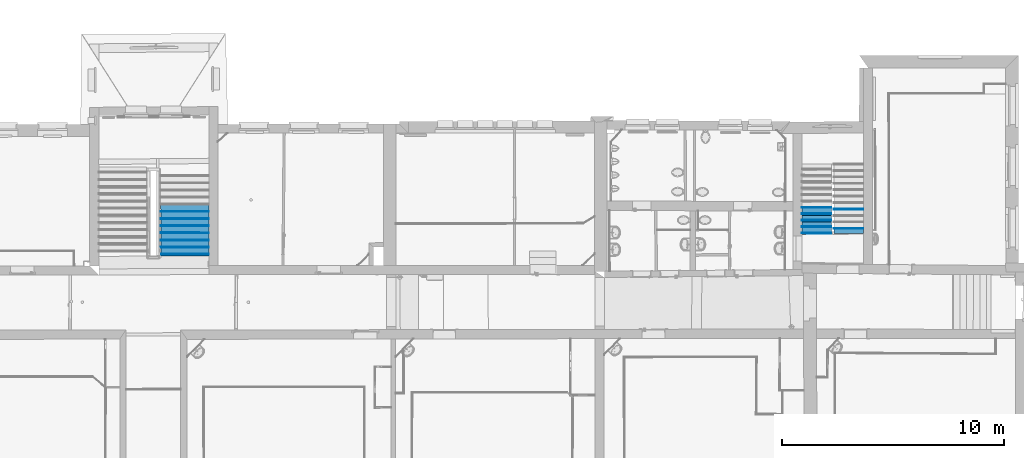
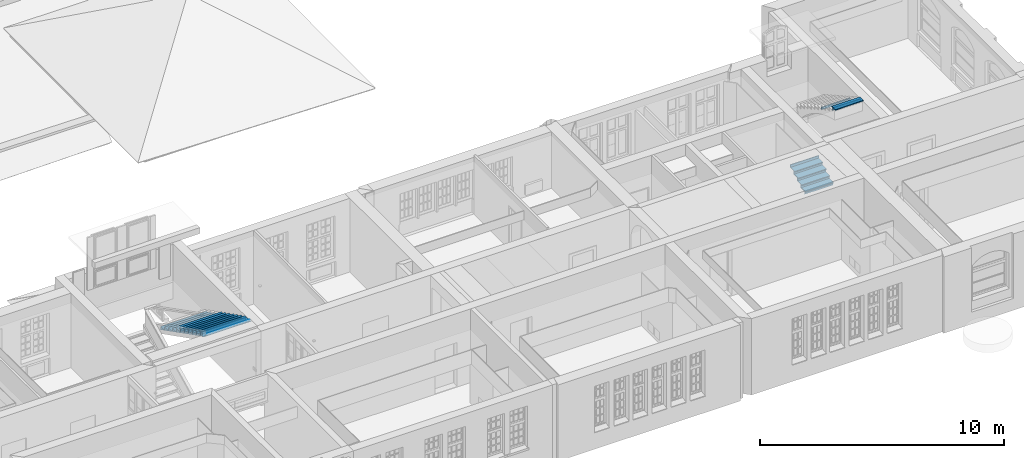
# One storey, part 113 of 158: 27 building element parts, 3 elements without a shape of their own.
"""IFC2X3 building model written with IfcOpenShell, lengths in metres."""

from ifc_helpers import new_model, entity, si_unit, converted_unit, derived_unit, money_unit, direction, frame, origin_with_axes, place, context, subcontext, project, spatial, faceted_brep, material, element, aggregate, save


model = new_model("IFC2X3")

# Units and contexts
model_context = context("Model", 3, precision=1e-05, world=origin_with_axes(), true_north=direction((0.0, 1.0)))
body_context = subcontext(model_context, "Body", "Model", "MODEL_VIEW")
ifc_project = project(units=[si_unit("LENGTHUNIT", "METRE"), si_unit("AREAUNIT", "SQUARE_METRE"), si_unit("VOLUMEUNIT", "CUBIC_METRE"), converted_unit("PLANEANGLEUNIT", "DEGREE", entity("IfcPlaneAngleMeasure", 0.0174532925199), si_unit("PLANEANGLEUNIT", "RADIAN"), dimensions=[0, 0, 0, 0, 0, 0, 0]), money_unit("EUR"), converted_unit("TIMEUNIT", "Year", entity("IfcTimeMeasure", 31556926.0), si_unit("TIMEUNIT", "SECOND"), dimensions=[0, 0, 1, 0, 0, 0, 0]), si_unit("MASSUNIT", "GRAM", prefix="KILO"), si_unit("THERMODYNAMICTEMPERATUREUNIT", "DEGREE_CELSIUS"), si_unit("LUMINOUSINTENSITYUNIT", "LUMEN"), si_unit("ENERGYUNIT", "JOULE", prefix="MEGA"), derived_unit("THERMALCONDUCTANCEUNIT", [(si_unit("POWERUNIT", "WATT"), 1), (si_unit("LENGTHUNIT", "METRE"), -1), (si_unit("THERMODYNAMICTEMPERATUREUNIT", "KELVIN"), -1)]), derived_unit("SPECIFICHEATCAPACITYUNIT", [(si_unit("ENERGYUNIT", "JOULE"), 1), (si_unit("MASSUNIT", "GRAM", prefix="KILO"), -1), (si_unit("THERMODYNAMICTEMPERATUREUNIT", "KELVIN"), -1)]), derived_unit("MASSDENSITYUNIT", [(si_unit("MASSUNIT", "GRAM", prefix="KILO"), 1), (si_unit("VOLUMEUNIT", "CUBIC_METRE"), -1)])], contexts=[model_context])

# Site, building, storey
site_placement = place(None, origin_with_axes())
site = spatial("IfcSite", under=ifc_project, at=site_placement, Name="Gelände", CompositionType="ELEMENT")
building_placement = place(site_placement, origin_with_axes())
building = spatial("IfcBuilding", under=site, at=building_placement, Name="Gebäude", CompositionType="ELEMENT")
storey_placement = place(building_placement, origin_with_axes())
storey = spatial("IfcBuildingStorey", under=building, at=storey_placement, Name="ERDGESCHOSS", CompositionType="ELEMENT", Elevation=0.0)

# Stair, building element parts
stair_1_placement = place(storey_placement, frame((21.8959454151, 21.0830287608, -0.0587690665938), z_axis=(0.0, 0.0, 1.0), x_axis=(0.999997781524, -0.00210640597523, 0.0)))
stair_1 = element("IfcStair", 1, at=stair_1_placement, inside=storey, Name="Treppe-003", ShapeType="NOTDEFINED")
ifc_material = material(Name="05_ALLGEMEIN - TRAGENDE BAUTEILE")
building_element_part_1_placement = place(stair_1_placement, origin_with_axes())
building_element_part_1 = element("IfcBuildingElementPart", 2, at=building_element_part_1_placement, material=ifc_material, Name="05_ALLGEMEIN - TRAGENDE BAUTEILE", context=body_context, shape_type="Brep", body=[
    faceted_brep([(1.32995944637, 0.0510673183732, 0.122397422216), (1.32992734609, 0.0910673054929, 0.122397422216), (-7.22256410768e-05, 0.0899999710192, 0.122397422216), (-4.01253561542e-05, 0.0499999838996, 0.122397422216), (1.32995944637, 0.0510673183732, 0.0), (1.32992734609, 0.0910673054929, 0.0), (-7.22256410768e-05, 0.0899999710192, 0.0), (-4.01253561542e-05, 0.0499999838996, 0.0)], [[[0, 1, 2, 3]], [[0, 4, 5, 1]], [[1, 5, 6, 2]], [[3, 2, 6, 7]], [[4, 0, 3, 7]], [[5, 4, 7, 6]]]),
])
building_element_part_2_placement = place(stair_1_placement, origin_with_axes())
building_element_part_2 = element("IfcBuildingElementPart", 3, at=building_element_part_2_placement, material=ifc_material, Name="05_ALLGEMEIN - TRAGENDE BAUTEILE", context=body_context, shape_type="Brep", body=[
    faceted_brep([(1.32972756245, 0.340016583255, 0.284794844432), (1.32969546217, 0.380016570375, 0.284794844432), (-0.000304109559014, 0.378949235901, 0.284794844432), (-0.000272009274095, 0.338949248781, 0.284794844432), (1.32972756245, 0.340016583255, 0.162397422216), (1.32969546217, 0.380016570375, 0.162397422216), (-0.000304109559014, 0.378949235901, 0.162397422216), (-0.000272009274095, 0.338949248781, 0.162397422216)], [[[0, 1, 2, 3]], [[0, 4, 5, 1]], [[1, 5, 6, 2]], [[3, 2, 6, 7]], [[4, 0, 3, 7]], [[5, 4, 7, 6]]]),
])
building_element_part_3_placement = place(stair_1_placement, origin_with_axes())
building_element_part_3 = element("IfcBuildingElementPart", 4, at=building_element_part_3_placement, material=ifc_material, Name="05_ALLGEMEIN - TRAGENDE BAUTEILE", context=body_context, shape_type="Brep", body=[
    faceted_brep([(-0.000503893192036, 0.627898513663, 0.447192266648), (1.32949567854, 0.628965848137, 0.447192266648), (1.32946357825, 0.668965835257, 0.447192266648), (-0.000535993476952, 0.667898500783, 0.447192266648), (-0.000503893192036, 0.627898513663, 0.324794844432), (1.32949567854, 0.628965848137, 0.324794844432), (1.32946357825, 0.668965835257, 0.324794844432), (-0.000535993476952, 0.667898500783, 0.324794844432)], [[[0, 1, 2, 3]], [[4, 5, 1, 0]], [[2, 1, 5, 6]], [[3, 2, 6, 7]], [[4, 0, 3, 7]], [[7, 6, 5, 4]]]),
])
building_element_part_4_placement = place(stair_1_placement, origin_with_axes())
building_element_part_4 = element("IfcBuildingElementPart", 5, at=building_element_part_4_placement, material=ifc_material, Name="05_ALLGEMEIN - TRAGENDE BAUTEILE", context=body_context, shape_type="Brep", body=[
    faceted_brep([(-0.000735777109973, 0.916847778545, 0.609589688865), (1.32926379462, 0.917915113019, 0.609589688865), (1.32923169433, 0.957915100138, 0.609589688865), (-0.000767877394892, 0.956847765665, 0.609589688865), (-0.000735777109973, 0.916847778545, 0.487192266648), (1.32926379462, 0.917915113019, 0.487192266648), (1.32923169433, 0.957915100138, 0.487192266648), (-0.000767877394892, 0.956847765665, 0.487192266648)], [[[0, 1, 2, 3]], [[4, 5, 1, 0]], [[2, 1, 5, 6]], [[3, 2, 6, 7]], [[4, 0, 3, 7]], [[7, 6, 5, 4]]]),
])
building_element_part_5_placement = place(stair_1_placement, origin_with_axes())
building_element_part_5 = element("IfcBuildingElementPart", 6, at=building_element_part_5_placement, material=ifc_material, Name="05_ALLGEMEIN - TRAGENDE BAUTEILE", context=body_context, shape_type="Brep", body=[
    faceted_brep([(-0.000967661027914, 1.20579704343, 0.771987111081), (1.3290319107, 1.2068643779, 0.771987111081), (1.32899981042, 1.24686436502, 0.771987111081), (-0.000999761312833, 1.24579703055, 0.771987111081), (-0.000967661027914, 1.20579704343, 0.649589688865), (1.3290319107, 1.2068643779, 0.649589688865), (1.32899981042, 1.24686436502, 0.649589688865), (-0.000999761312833, 1.24579703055, 0.649589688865)], [[[0, 1, 2, 3]], [[4, 5, 1, 0]], [[2, 1, 5, 6]], [[3, 2, 6, 7]], [[4, 0, 3, 7]], [[7, 6, 5, 4]]]),
])
building_element_part_6_placement = place(stair_1_placement, origin_with_axes())
building_element_part_6 = element("IfcBuildingElementPart", 7, at=building_element_part_6_placement, material=ifc_material, Name="05_ALLGEMEIN - TRAGENDE BAUTEILE", context=body_context, shape_type="Brep", body=[
    faceted_brep([(0.0, 0.0, 0.122397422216), (1.32999957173, 0.00106733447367, 0.122397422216), (1.32999957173, 0.00106733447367, 0.162397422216), (0.0, 0.0, 0.162397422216), (-0.000304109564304, 0.378949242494, 0.122397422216), (1.32969546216, 0.380016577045, 0.122397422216), (1.32969546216, 0.380016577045, 0.162397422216), (-0.000304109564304, 0.378949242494, 0.162397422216)], [[[0, 1, 2, 3]], [[0, 4, 5, 1]], [[1, 5, 6, 2]], [[3, 2, 6, 7]], [[4, 0, 3, 7]], [[5, 4, 7, 6]]]),
])
building_element_part_7_placement = place(stair_1_placement, origin_with_axes())
building_element_part_7 = element("IfcBuildingElementPart", 8, at=building_element_part_7_placement, material=ifc_material, Name="05_ALLGEMEIN - TRAGENDE BAUTEILE", context=body_context, shape_type="Brep", body=[
    faceted_brep([(-0.000231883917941, 0.288949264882, 0.324794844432), (-0.000231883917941, 0.288949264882, 0.284794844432), (1.32976768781, 0.290016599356, 0.284794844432), (1.32976768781, 0.290016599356, 0.324794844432), (-0.000535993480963, 0.667898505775, 0.324794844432), (-0.000535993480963, 0.667898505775, 0.284794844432), (1.32946357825, 0.668965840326, 0.284794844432), (1.32946357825, 0.668965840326, 0.324794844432)], [[[0, 1, 2, 3]], [[4, 5, 1, 0]], [[2, 1, 5, 6]], [[3, 2, 6, 7]], [[4, 0, 3, 7]], [[7, 6, 5, 4]]]),
])
building_element_part_8_placement = place(stair_1_placement, origin_with_axes())
building_element_part_8 = element("IfcBuildingElementPart", 9, at=building_element_part_8_placement, material=ifc_material, Name="05_ALLGEMEIN - TRAGENDE BAUTEILE", context=body_context, shape_type="Brep", body=[
    faceted_brep([(-0.000463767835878, 0.577898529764, 0.487192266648), (-0.000463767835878, 0.577898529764, 0.447192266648), (1.32953580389, 0.578965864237, 0.447192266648), (1.32953580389, 0.578965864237, 0.487192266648), (-0.000767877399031, 0.95684777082, 0.487192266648), (-0.000767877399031, 0.95684777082, 0.447192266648), (1.32923169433, 0.957915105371, 0.447192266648), (1.32923169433, 0.957915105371, 0.487192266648)], [[[0, 1, 2, 3]], [[4, 5, 1, 0]], [[2, 1, 5, 6]], [[3, 2, 6, 7]], [[4, 0, 3, 7]], [[7, 6, 5, 4]]]),
])
building_element_part_9_placement = place(stair_1_placement, origin_with_axes())
building_element_part_9 = element("IfcBuildingElementPart", 10, at=building_element_part_9_placement, material=ifc_material, Name="05_ALLGEMEIN - TRAGENDE BAUTEILE", context=body_context, shape_type="Brep", body=[
    faceted_brep([(-0.000695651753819, 0.866847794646, 0.649589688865), (-0.000695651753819, 0.866847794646, 0.609589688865), (1.32930391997, 0.867915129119, 0.609589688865), (1.32930391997, 0.867915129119, 0.649589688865), (-0.000999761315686, 1.2457970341, 0.649589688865), (-0.000999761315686, 1.2457970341, 0.609589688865), (1.32899981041, 1.24686436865, 0.609589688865), (1.32899981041, 1.24686436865, 0.649589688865)], [[[0, 1, 2, 3]], [[4, 5, 1, 0]], [[2, 1, 5, 6]], [[3, 2, 6, 7]], [[4, 0, 3, 7]], [[7, 6, 5, 4]]]),
])
aggregate(stair_1, [building_element_part_1, building_element_part_2, building_element_part_3, building_element_part_4, building_element_part_5, building_element_part_6, building_element_part_7, building_element_part_8, building_element_part_9])

stair_2_placement = place(storey_placement, frame((24.6725396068, 24.3329310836, 1.86929199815), z_axis=(0.0, 0.0, 1.0), x_axis=(-0.999999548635, 0.000950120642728, 0.0)))
stair_2 = element("IfcStair", 11, at=stair_2_placement, inside=storey, Name="Treppe-003", ShapeType="NOTDEFINED")
building_element_part_10_placement = place(stair_2_placement, origin_with_axes())
building_element_part_10 = element("IfcBuildingElementPart", 12, at=building_element_part_10_placement, material=ifc_material, Name="05_ALLGEMEIN - TRAGENDE BAUTEILE", context=body_context, shape_type="Brep", body=[
    faceted_brep([(-0.00167145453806, 2.08279023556, 1.26605503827), (1.32832811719, 2.08385757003, 1.26605503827), (1.32829601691, 2.12385755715, 1.26605503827), (-0.00170355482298, 2.12279022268, 1.26605503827), (-0.00167145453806, 2.08279023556, 1.14279815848), (1.32832811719, 2.08385757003, 1.14279815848), (1.32829601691, 2.12385755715, 1.14279815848), (-0.00170355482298, 2.12279022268, 1.14279815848)], [[[0, 1, 2, 3]], [[4, 5, 1, 0]], [[2, 1, 5, 6]], [[3, 2, 6, 7]], [[4, 0, 3, 7]], [[7, 6, 5, 4]]]),
])
building_element_part_11_placement = place(stair_2_placement, origin_with_axes())
building_element_part_11 = element("IfcBuildingElementPart", 13, at=building_element_part_11_placement, material=ifc_material, Name="05_ALLGEMEIN - TRAGENDE BAUTEILE", context=body_context, shape_type="Brep", body=[
    faceted_brep([(1.32762897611, 2.95505339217, 1.75582567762), (1.32759687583, 2.99505337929, 1.75582567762), (-0.00240269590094, 2.99398604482, 1.75582567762), (-0.00237059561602, 2.9539860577, 1.75582567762), (1.32762897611, 2.95505339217, 1.63256879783), (1.32759687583, 2.99505337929, 1.63256879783), (-0.00240269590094, 2.99398604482, 1.63256879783), (-0.00237059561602, 2.9539860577, 1.63256879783)], [[[0, 1, 2, 3]], [[0, 4, 5, 1]], [[1, 5, 6, 2]], [[3, 2, 6, 7]], [[4, 0, 3, 7]], [[5, 4, 7, 6]]]),
])
building_element_part_12_placement = place(stair_2_placement, origin_with_axes())
building_element_part_12 = element("IfcBuildingElementPart", 14, at=building_element_part_12_placement, material=ifc_material, Name="05_ALLGEMEIN - TRAGENDE BAUTEILE", context=body_context, shape_type="Brep", body=[
    faceted_brep([(1.32727854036, 3.1217198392, 1.79582567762), (1.32660376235, 3.20478178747, 1.79582567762), (-0.00256319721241, 3.1939839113, 1.79582567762), (-0.00233047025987, 2.9039860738, 1.79582567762), (1.32766910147, 2.90505340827, 1.79582567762), (1.32749522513, 3.12171974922, 1.79582567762), (1.32727854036, 3.1217198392, 1.75582567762), (1.32660376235, 3.20478178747, 1.75582567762), (-0.00256319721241, 3.1939839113, 1.75582567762), (-0.00233047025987, 2.9039860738, 1.75582567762), (1.32766910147, 2.90505340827, 1.75582567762), (1.32749522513, 3.12171974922, 1.75582567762)], [[[0, 1, 2, 3, 4, 5]], [[1, 0, 6, 7]], [[8, 2, 1, 7]], [[2, 8, 9, 3]], [[3, 9, 10, 4]], [[11, 5, 4, 10]], [[0, 5, 11, 6]], [[6, 11, 10, 9, 8, 7]]]),
])
aggregate(stair_2, [building_element_part_10, building_element_part_11, building_element_part_12])

stair_3_placement = place(storey_placement, frame((-4.87334172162, 23.8045853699, 1.79631283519), z_axis=(0.0, 0.0, 1.0), x_axis=(-0.999999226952, 0.00124342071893, 0.0)))
stair_3 = element("IfcStair", 15, at=stair_3_placement, inside=storey, Name="Treppe-003", ShapeType="NOTDEFINED")
building_element_part_13_placement = place(stair_3_placement, origin_with_axes())
building_element_part_13 = element("IfcBuildingElementPart", 16, at=building_element_part_13_placement, material=ifc_material, Name="05_ALLGEMEIN - TRAGENDE BAUTEILE", context=body_context, shape_type="Brep", body=[
    faceted_brep([(2.15368278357, 3.69123503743, 1.80368716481), (0.000140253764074, 3.67698739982, 1.80368716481), (-0.000322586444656, 3.74694609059, 1.80368716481), (-0.00300694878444, 3.74694393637, 1.80368716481), (-0.00291561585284, 3.63313752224, 1.80368716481), (2.15411803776, 3.63486855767, 1.80368716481), (2.15368278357, 3.69123503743, 1.77455224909), (0.000140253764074, 3.67698739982, 1.76820207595), (2.15543480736, 3.46434368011, 1.65946623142), (-0.00277877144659, 3.46261169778, 1.65946623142), (-0.00284339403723, 3.54313755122, 1.70031110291), (-0.00291561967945, 3.63313752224, 1.75717434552), (-0.00271414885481, 3.38208584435, 1.61862135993), (-0.00264952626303, 3.30155999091, 1.57777648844), (-0.00258490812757, 3.22103413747, 1.53693161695), (-0.00252028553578, 3.14050828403, 1.49608674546), (-0.002455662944, 3.05998243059, 1.45524187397), (-0.00239104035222, 2.97945657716, 1.41439700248), (-0.00232642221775, 2.89893072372, 1.37355213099), (-0.00226179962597, 2.81840487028, 1.3327072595), (-0.00219717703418, 2.73787901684, 1.29186238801), (-0.0021325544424, 2.65735316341, 1.25101751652), (-0.00206793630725, 2.57682730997, 1.21017264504), (-0.00200331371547, 2.49630145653, 1.16932777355), (-0.00193869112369, 2.41577560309, 1.12848290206), (-0.00187406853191, 2.33524974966, 1.08763803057), (-0.00180944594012, 2.25472389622, 1.04679315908), (-0.00174480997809, 2.17419804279, 1.00594828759), (-0.00168018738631, 2.09367218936, 0.965103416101), (-0.00161556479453, 2.01314633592, 0.924258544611), (-0.00155094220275, 1.93262048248, 0.883413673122), (-0.00148631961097, 1.85209462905, 0.842568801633), (-0.00142169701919, 1.77156877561, 0.801723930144), (-0.00135707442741, 1.69104292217, 0.760879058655), (-0.00129245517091, 1.61051706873, 0.720034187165), (-0.00122783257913, 1.5299912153, 0.679189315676), (-0.00116320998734, 1.44946536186, 0.638344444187), (-0.00109858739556, 1.36893950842, 0.597499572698), (-0.00103396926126, 1.28841365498, 0.556654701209), (-0.000969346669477, 1.20788780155, 0.515809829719), (-0.000904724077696, 1.12736194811, 0.47496495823), (-0.000840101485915, 1.04683609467, 0.434120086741), (-0.000775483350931, 0.966310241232, 0.393275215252), (-0.000710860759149, 0.885784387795, 0.352430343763), (-0.000646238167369, 0.805258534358, 0.311585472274), (-0.000581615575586, 0.724732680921, 0.270740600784), (-0.000516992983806, 0.644206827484, 0.229895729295), (-0.00045235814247, 0.563680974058, 0.189050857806), (-0.000387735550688, 0.483155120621, 0.148205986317), (-0.000323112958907, 0.402629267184, 0.107361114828), (-0.000258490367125, 0.322103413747, 0.0665162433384), (-0.000193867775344, 0.24157756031, 0.0256713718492), (-0.000129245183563, 0.161051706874, -0.01517349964), (-7.22203257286e-05, 0.0899933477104, -0.0512162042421), (-7.22203257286e-05, 0.0899933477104, -0.04), (-7.22241773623e-05, 0.0899999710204, 0.123379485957), (-0.000330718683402, 0.412103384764, 0.123379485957), (-0.000330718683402, 0.412103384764, 0.286758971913), (-0.000589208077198, 0.734206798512, 0.286758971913), (-0.000589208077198, 0.734206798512, 0.45013845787), (-0.000847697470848, 1.05631021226, 0.45013845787), (-0.000847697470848, 1.05631021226, 0.613517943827), (-0.00110618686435, 1.37841362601, 0.613517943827), (-0.00110618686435, 1.37841362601, 0.776897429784), (-0.0013646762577, 1.70051703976, 0.776897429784), (-0.0013646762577, 1.70051703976, 0.94027691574), (-0.00162317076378, 2.0226204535, 0.94027691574), (-0.00162317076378, 2.0226204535, 1.1036564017), (-0.00188166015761, 2.34472386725, 1.1036564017), (-0.00188166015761, 2.34472386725, 1.26703588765), (-0.0021401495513, 2.666827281, 1.26703588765), (-0.0021401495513, 2.666827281, 1.43041537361), (-0.00239863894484, 2.98893069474, 1.43041537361), (-0.00239863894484, 2.98893069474, 1.59379485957), (-0.00265712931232, 3.31103410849, 1.59379485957), (-0.00265712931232, 3.31103410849, 1.75717434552), (-0.00284339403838, 3.54313755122, 1.75717434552), (2.15411803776, 3.63486855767, 1.75717434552), (2.15660526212, 3.3127669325, 1.75717434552), (2.15660526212, 3.3127669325, 1.59379485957), (2.15909248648, 2.99066530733, 1.59379485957), (2.15909248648, 2.99066530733, 1.43041537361), (2.16157971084, 2.66856368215, 1.43041537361), (2.16157971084, 2.66856368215, 1.26703588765), (2.1640669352, 2.34646205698, 1.26703588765), (2.1640669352, 2.34646205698, 1.1036564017), (2.16655415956, 2.02436043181, 1.1036564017), (2.16655415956, 2.02436043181, 0.94027691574), (2.16904138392, 1.70225880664, 0.94027691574), (2.16904138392, 1.70225880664, 0.776897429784), (2.17152860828, 1.38015718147, 0.776897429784), (2.17152860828, 1.38015718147, 0.613517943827), (2.17401583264, 1.0580555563, 0.613517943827), (2.17401583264, 1.0580555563, 0.45013845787), (2.176503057, 0.735953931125, 0.45013845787), (2.176503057, 0.735953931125, 0.286758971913), (2.17899028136, 0.413852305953, 0.286758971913), (2.17899028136, 0.413852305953, 0.123379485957), (2.17974725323, 0.31582260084, 0.123379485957), (2.17974725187, 0.31582277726, 0.0624431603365), (2.17968524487, 0.323852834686, 0.0665162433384), (2.17906343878, 0.404378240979, 0.107361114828), (2.17844163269, 0.484903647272, 0.148205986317), (2.1778198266, 0.565429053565, 0.189050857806), (2.17719802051, 0.645954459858, 0.229895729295), (2.17657621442, 0.72647986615, 0.270740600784), (2.17595440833, 0.807005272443, 0.311585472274), (2.17533260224, 0.887530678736, 0.352430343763), (2.17471079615, 0.968056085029, 0.393275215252), (2.17408899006, 1.04858149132, 0.434120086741), (2.17346718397, 1.12910689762, 0.47496495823), (2.17284537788, 1.20963230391, 0.515809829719), (2.17222357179, 1.2901577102, 0.556654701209), (2.1716017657, 1.37068311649, 0.597499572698), (2.17097995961, 1.45120852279, 0.638344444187), (2.17035815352, 1.53173392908, 0.679189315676), (2.16973634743, 1.61225933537, 0.720034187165), (2.16911454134, 1.69278474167, 0.760879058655), (2.16849273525, 1.77331014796, 0.801723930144), (2.16787092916, 1.85383555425, 0.842568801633), (2.16724912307, 1.93436096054, 0.883413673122), (2.16662731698, 2.01488636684, 0.924258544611), (2.16600551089, 2.09541177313, 0.965103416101), (2.1653837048, 2.17593717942, 1.00594828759), (2.16476189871, 2.25646258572, 1.04679315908), (2.16414009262, 2.33698799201, 1.08763803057), (2.16351828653, 2.4175133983, 1.12848290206), (2.16289648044, 2.49803880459, 1.16932777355), (2.16227467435, 2.57856421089, 1.21017264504), (2.16165286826, 2.65908961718, 1.25101751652), (2.16103106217, 2.73961502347, 1.29186238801), (2.16040925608, 2.82014042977, 1.3327072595), (2.15978744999, 2.90066583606, 1.37355213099), (2.1591656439, 2.98119124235, 1.41439700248), (2.15854383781, 3.06171664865, 1.45524187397), (2.15792203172, 3.14224205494, 1.49608674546), (2.15730022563, 3.22276746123, 1.53693161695), (2.15667841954, 3.30329286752, 1.57777648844), (2.15605661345, 3.38381827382, 1.61862135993), (2.17980543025, 0.243327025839, 0.0256713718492), (2.17987005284, 0.162801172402, -0.01517349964), (2.17992707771, 0.091742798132, -0.0512162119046), (2.17992707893, 0.091742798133, -0.04), (2.1799270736, 0.0917494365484, 0.123379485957)], [[[0, 1, 2, 3, 4, 5]], [[1, 0, 6, 7]], [[7, 2, 1]], [[7, 6, 8, 9, 10, 3, 2]], [[11, 4, 3, 10, 9, 12, 13, 14, 15, 16, 17, 18, 19, 20, 21, 22, 23, 24, 25, 26, 27, 28, 29, 30, 31, 32, 33, 34, 35, 36, 37, 38, 39, 40, 41, 42, 43, 44, 45, 46, 47, 48, 49, 50, 51, 52, 53, 54, 55, 56, 57, 58, 59, 60, 61, 62, 63, 64, 65, 66, 67, 68, 69, 70, 71, 72, 73, 74, 75, 76]], [[77, 5, 4, 11]], [[6, 0, 5, 77, 78, 79, 80, 81, 82, 83, 84, 85, 86, 87, 88, 89, 90, 91, 92, 93, 94, 95, 96, 97, 98, 99, 100, 101, 102, 103, 104, 105, 106, 107, 108, 109, 110, 111, 112, 113, 114, 115, 116, 117, 118, 119, 120, 121, 122, 123, 124, 125, 126, 127, 128, 129, 130, 131, 132, 133, 134, 135, 136, 137, 138, 8]], [[138, 12, 9, 8]], [[137, 13, 12, 138]], [[136, 14, 13, 137]], [[135, 15, 14, 136]], [[134, 16, 15, 135]], [[133, 17, 16, 134]], [[132, 18, 17, 133]], [[131, 19, 18, 132]], [[130, 20, 19, 131]], [[129, 21, 20, 130]], [[128, 22, 21, 129]], [[127, 23, 22, 128]], [[126, 24, 23, 127]], [[125, 25, 24, 126]], [[124, 26, 25, 125]], [[123, 27, 26, 124]], [[122, 28, 27, 123]], [[121, 29, 28, 122]], [[120, 30, 29, 121]], [[119, 31, 30, 120]], [[118, 32, 31, 119]], [[117, 33, 32, 118]], [[116, 34, 33, 117]], [[115, 35, 34, 116]], [[114, 36, 35, 115]], [[113, 37, 36, 114]], [[112, 38, 37, 113]], [[111, 39, 38, 112]], [[110, 40, 39, 111]], [[109, 41, 40, 110]], [[108, 42, 41, 109]], [[107, 43, 42, 108]], [[106, 44, 43, 107]], [[105, 45, 44, 106]], [[104, 46, 45, 105]], [[103, 47, 46, 104]], [[102, 48, 47, 103]], [[101, 49, 48, 102]], [[100, 50, 49, 101]], [[139, 51, 50, 100, 99]], [[51, 139, 140, 52]], [[52, 140, 141, 53]], [[53, 141, 142, 54]], [[143, 55, 54, 142]], [[56, 55, 143, 98, 97]], [[96, 57, 56, 97]], [[95, 58, 57, 96]], [[94, 59, 58, 95]], [[93, 60, 59, 94]], [[92, 61, 60, 93]], [[91, 62, 61, 92]], [[90, 63, 62, 91]], [[89, 64, 63, 90]], [[88, 65, 64, 89]], [[87, 66, 65, 88]], [[86, 67, 66, 87]], [[85, 68, 67, 86]], [[84, 69, 68, 85]], [[83, 70, 69, 84]], [[82, 71, 70, 83]], [[81, 72, 71, 82]], [[80, 73, 72, 81]], [[79, 74, 73, 80]], [[78, 75, 74, 79]], [[11, 76, 75, 78, 77]], [[98, 143, 142, 141, 140, 139, 99]]]),
])
building_element_part_14_placement = place(stair_3_placement, origin_with_axes())
building_element_part_14 = element("IfcBuildingElementPart", 17, at=building_element_part_14_placement, material=ifc_material, Name="05_ALLGEMEIN - TRAGENDE BAUTEILE", context=body_context, shape_type="Brep", body=[
    faceted_brep([(2.16935025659, 1.66225904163, 0.94027691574), (2.16904138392, 1.70225880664, 0.94027691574), (-0.0013646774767, 1.70051703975, 0.94027691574), (-0.00133257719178, 1.66051705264, 0.94027691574), (2.16904138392, 1.70225880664, 0.816897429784), (2.16935025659, 1.66225904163, 0.816897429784), (-0.0013646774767, 1.70051703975, 0.816897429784), (-0.00133257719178, 1.66051705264, 0.816897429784)], [[[0, 1, 2, 3]], [[4, 1, 0, 5]], [[1, 4, 6, 2]], [[7, 3, 2, 6]], [[5, 0, 3, 7]], [[4, 5, 7, 6]]]),
])
building_element_part_15_placement = place(stair_3_placement, origin_with_axes())
building_element_part_15 = element("IfcBuildingElementPart", 18, at=building_element_part_15_placement, material=ifc_material, Name="05_ALLGEMEIN - TRAGENDE BAUTEILE", context=body_context, shape_type="Brep", body=[
    faceted_brep([(2.16686303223, 1.9843606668, 1.1036564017), (2.16655415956, 2.02436043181, 1.1036564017), (-0.00162316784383, 2.0226204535, 1.1036564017), (-0.0015910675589, 1.98262046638, 1.1036564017), (2.16655415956, 2.02436043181, 0.98027691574), (2.16686303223, 1.9843606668, 0.98027691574), (-0.00162316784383, 2.0226204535, 0.98027691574), (-0.0015910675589, 1.98262046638, 0.98027691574)], [[[0, 1, 2, 3]], [[4, 1, 0, 5]], [[1, 4, 6, 2]], [[7, 3, 2, 6]], [[5, 0, 3, 7]], [[4, 5, 7, 6]]]),
])
building_element_part_16_placement = place(stair_3_placement, origin_with_axes())
building_element_part_16 = element("IfcBuildingElementPart", 19, at=building_element_part_16_placement, material=ifc_material, Name="05_ALLGEMEIN - TRAGENDE BAUTEILE", context=body_context, shape_type="Brep", body=[
    faceted_brep([(2.16437580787, 2.30646229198, 1.26703588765), (2.1640669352, 2.34646205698, 1.26703588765), (-0.00188165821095, 2.34472386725, 1.26703588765), (-0.00184955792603, 2.30472388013, 1.26703588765), (2.1640669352, 2.34646205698, 1.1436564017), (2.16437580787, 2.30646229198, 1.1436564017), (-0.00188165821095, 2.34472386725, 1.1436564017), (-0.00184955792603, 2.30472388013, 1.1436564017)], [[[0, 1, 2, 3]], [[4, 1, 0, 5]], [[1, 4, 6, 2]], [[7, 3, 2, 6]], [[5, 0, 3, 7]], [[4, 5, 7, 6]]]),
])
building_element_part_17_placement = place(stair_3_placement, origin_with_axes())
building_element_part_17 = element("IfcBuildingElementPart", 20, at=building_element_part_17_placement, material=ifc_material, Name="05_ALLGEMEIN - TRAGENDE BAUTEILE", context=body_context, shape_type="Brep", body=[
    faceted_brep([(2.16188858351, 2.62856391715, 1.43041537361), (2.16157971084, 2.66856368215, 1.43041537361), (-0.00214014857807, 2.666827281, 1.43041537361), (-0.00210804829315, 2.62682729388, 1.43041537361), (2.16157971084, 2.66856368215, 1.30703588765), (2.16188858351, 2.62856391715, 1.30703588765), (-0.00214014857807, 2.666827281, 1.30703588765), (-0.00210804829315, 2.62682729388, 1.30703588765)], [[[0, 1, 2, 3]], [[4, 1, 0, 5]], [[1, 4, 6, 2]], [[7, 3, 2, 6]], [[5, 0, 3, 7]], [[4, 5, 7, 6]]]),
])
building_element_part_18_placement = place(stair_3_placement, origin_with_axes())
building_element_part_18 = element("IfcBuildingElementPart", 21, at=building_element_part_18_placement, material=ifc_material, Name="05_ALLGEMEIN - TRAGENDE BAUTEILE", context=body_context, shape_type="Brep", body=[
    faceted_brep([(2.15940135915, 2.95066554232, 1.59379485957), (2.15909248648, 2.99066530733, 1.59379485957), (-0.0023986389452, 2.98893069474, 1.59379485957), (-0.00236653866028, 2.94893070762, 1.59379485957), (2.15909248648, 2.99066530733, 1.47041537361), (2.15940135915, 2.95066554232, 1.47041537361), (-0.0023986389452, 2.98893069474, 1.47041537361), (-0.00236653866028, 2.94893070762, 1.47041537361)], [[[0, 1, 2, 3]], [[4, 1, 0, 5]], [[1, 4, 6, 2]], [[7, 3, 2, 6]], [[5, 0, 3, 7]], [[4, 5, 7, 6]]]),
])
building_element_part_19_placement = place(stair_3_placement, origin_with_axes())
building_element_part_19 = element("IfcBuildingElementPart", 22, at=building_element_part_19_placement, material=ifc_material, Name="05_ALLGEMEIN - TRAGENDE BAUTEILE", context=body_context, shape_type="Brep", body=[
    faceted_brep([(2.15691413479, 3.27276716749, 1.75717434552), (2.15660526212, 3.3127669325, 1.75717434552), (-0.00265712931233, 3.31103410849, 1.75717434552), (-0.0026250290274, 3.27103412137, 1.75717434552), (2.15660526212, 3.3127669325, 1.63379485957), (2.15691413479, 3.27276716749, 1.63379485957), (-0.00265712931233, 3.31103410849, 1.63379485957), (-0.0026250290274, 3.27103412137, 1.63379485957)], [[[0, 1, 2, 3]], [[4, 1, 0, 5]], [[1, 4, 6, 2]], [[7, 3, 2, 6]], [[5, 0, 3, 7]], [[4, 5, 7, 6]]]),
])
building_element_part_20_placement = place(stair_3_placement, origin_with_axes())
building_element_part_20 = element("IfcBuildingElementPart", 23, at=building_element_part_20_placement, material=ifc_material, Name="05_ALLGEMEIN - TRAGENDE BAUTEILE", context=body_context, shape_type="Brep", body=[
    faceted_brep([(2.15442691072, 3.59486875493, 1.80368716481), (-0.00288351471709, 3.59313754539, 1.80368716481), (-0.00288351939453, 3.59313753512, 1.79717434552), (2.15442691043, 3.59486879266, 1.79717434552), (-0.00291561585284, 3.63313752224, 1.80368716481), (2.15411803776, 3.63486855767, 1.80368716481), (-0.00291561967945, 3.63313752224, 1.79717434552), (2.15411803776, 3.63486855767, 1.79717434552)], [[[0, 1, 2, 3]], [[4, 1, 0, 5]], [[1, 4, 6, 2]], [[6, 7, 3, 2]], [[5, 0, 3, 7]], [[4, 5, 7, 6]]]),
])
building_element_part_21_placement = place(stair_3_placement, origin_with_axes())
building_element_part_21 = element("IfcBuildingElementPart", 24, at=building_element_part_21_placement, material=ifc_material, Name="05_ALLGEMEIN - TRAGENDE BAUTEILE", context=body_context, shape_type="Brep", body=[
    faceted_brep([(2.17222357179, 1.2901577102, 0.816897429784), (2.16904138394, 1.70225880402, 0.816897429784), (-0.0013646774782, 1.70051704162, 0.816897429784), (-0.0010339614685, 1.28841365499, 0.816897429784), (2.16904138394, 1.70225880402, 0.776897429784), (2.17222357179, 1.2901577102, 0.776897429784), (-0.0013646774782, 1.70051704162, 0.776897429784), (-0.0010339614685, 1.28841365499, 0.776897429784)], [[[0, 1, 2, 3]], [[4, 1, 0, 5]], [[1, 4, 6, 2]], [[2, 6, 7, 3]], [[5, 0, 3, 7]], [[4, 5, 7, 6]]]),
])
building_element_part_22_placement = place(stair_3_placement, origin_with_axes())
building_element_part_22 = element("IfcBuildingElementPart", 25, at=building_element_part_22_placement, material=ifc_material, Name="05_ALLGEMEIN - TRAGENDE BAUTEILE", context=body_context, shape_type="Brep", body=[
    faceted_brep([(2.16973634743, 1.61225933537, 0.98027691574), (2.16655415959, 2.02436042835, 0.98027691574), (-0.00162316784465, 2.02262045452, 0.98027691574), (-0.00129245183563, 1.61051706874, 0.98027691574), (2.16655415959, 2.02436042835, 0.94027691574), (2.16973634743, 1.61225933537, 0.94027691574), (-0.00162316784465, 2.02262045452, 0.94027691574), (-0.00129245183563, 1.61051706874, 0.94027691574)], [[[0, 1, 2, 3]], [[4, 1, 0, 5]], [[1, 4, 6, 2]], [[2, 6, 7, 3]], [[5, 0, 3, 7]], [[4, 5, 7, 6]]]),
])
building_element_part_23_placement = place(stair_3_placement, origin_with_axes())
building_element_part_23 = element("IfcBuildingElementPart", 26, at=building_element_part_23_placement, material=ifc_material, Name="05_ALLGEMEIN - TRAGENDE BAUTEILE", context=body_context, shape_type="Brep", body=[
    faceted_brep([(2.16724912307, 1.93436096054, 1.1436564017), (2.1640669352, 2.34646205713, 1.1436564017), (-0.00188165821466, 2.34472387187, 1.1436564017), (-0.00155094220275, 1.93262048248, 1.1436564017), (2.1640669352, 2.34646205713, 1.1036564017), (2.16724912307, 1.93436096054, 1.1036564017), (-0.00188165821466, 2.34472387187, 1.1036564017), (-0.00155094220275, 1.93262048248, 1.1036564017)], [[[0, 1, 2, 3]], [[4, 1, 0, 5]], [[1, 4, 6, 2]], [[2, 6, 7, 3]], [[5, 0, 3, 7]], [[4, 5, 7, 6]]]),
])
building_element_part_24_placement = place(stair_3_placement, origin_with_axes())
building_element_part_24 = element("IfcBuildingElementPart", 27, at=building_element_part_24_placement, material=ifc_material, Name="05_ALLGEMEIN - TRAGENDE BAUTEILE", context=body_context, shape_type="Brep", body=[
    faceted_brep([(2.16476189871, 2.25646258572, 1.30703588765), (2.16157971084, 2.66856368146, 1.30703588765), (-0.0021401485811, 2.66682728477, 1.30703588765), (-0.00180943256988, 2.25472389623, 1.30703588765), (2.16157971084, 2.66856368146, 1.26703588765), (2.16476189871, 2.25646258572, 1.26703588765), (-0.0021401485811, 2.66682728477, 1.26703588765), (-0.00180943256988, 2.25472389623, 1.26703588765)], [[[0, 1, 2, 3]], [[4, 1, 0, 5]], [[1, 4, 6, 2]], [[2, 6, 7, 3]], [[5, 0, 3, 7]], [[4, 5, 7, 6]]]),
])
building_element_part_25_placement = place(stair_3_placement, origin_with_axes())
building_element_part_25 = element("IfcBuildingElementPart", 28, at=building_element_part_25_placement, material=ifc_material, Name="05_ALLGEMEIN - TRAGENDE BAUTEILE", context=body_context, shape_type="Brep", body=[
    faceted_brep([(2.16227467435, 2.57856421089, 1.47041537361), (2.15909248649, 2.99066530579, 1.47041537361), (-0.00239863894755, 2.98893069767, 1.47041537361), (-0.002067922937, 2.57682730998, 1.47041537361), (2.15909248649, 2.99066530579, 1.43041537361), (2.16227467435, 2.57856421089, 1.43041537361), (-0.00239863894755, 2.98893069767, 1.43041537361), (-0.002067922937, 2.57682730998, 1.43041537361)], [[[0, 1, 2, 3]], [[4, 1, 0, 5]], [[1, 4, 6, 2]], [[2, 6, 7, 3]], [[5, 0, 3, 7]], [[4, 5, 7, 6]]]),
])
building_element_part_26_placement = place(stair_3_placement, origin_with_axes())
building_element_part_26 = element("IfcBuildingElementPart", 29, at=building_element_part_26_placement, material=ifc_material, Name="05_ALLGEMEIN - TRAGENDE BAUTEILE", context=body_context, shape_type="Brep", body=[
    faceted_brep([(2.15978744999, 2.90066583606, 1.63379485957), (2.15660526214, 3.31276693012, 1.63379485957), (-0.00265712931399, 3.31103411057, 1.63379485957), (-0.00232641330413, 2.89893072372, 1.63379485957), (2.15660526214, 3.31276693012, 1.59379485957), (2.15978744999, 2.90066583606, 1.59379485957), (-0.00265712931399, 3.31103411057, 1.59379485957), (-0.00232641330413, 2.89893072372, 1.59379485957)], [[[0, 1, 2, 3]], [[4, 1, 0, 5]], [[1, 4, 6, 2]], [[2, 6, 7, 3]], [[5, 0, 3, 7]], [[4, 5, 7, 6]]]),
])
building_element_part_27_placement = place(stair_3_placement, origin_with_axes())
building_element_part_27 = element("IfcBuildingElementPart", 30, at=building_element_part_27_placement, material=ifc_material, Name="05_ALLGEMEIN - TRAGENDE BAUTEILE", context=body_context, shape_type="Brep", body=[
    faceted_brep([(2.15730022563, 3.22276746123, 1.79717434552), (2.15411803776, 3.63486855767, 1.79717434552), (-0.00291561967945, 3.63313752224, 1.79717434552), (-0.00284339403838, 3.54313755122, 1.79717434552), (-0.00258490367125, 3.22103413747, 1.79717434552), (2.15411803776, 3.63486855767, 1.75717434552), (2.15730022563, 3.22276746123, 1.75717434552), (-0.00291561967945, 3.63313752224, 1.75717434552), (-0.00284339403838, 3.54313755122, 1.75717434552), (-0.00258490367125, 3.22103413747, 1.75717434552)], [[[0, 1, 2, 3, 4]], [[5, 1, 0, 6]], [[1, 5, 7, 2]], [[2, 7, 8, 3]], [[3, 8, 9, 4]], [[6, 0, 4, 9]], [[5, 6, 9, 8, 7]]]),
])
aggregate(stair_3, [building_element_part_13, building_element_part_14, building_element_part_15, building_element_part_16, building_element_part_17, building_element_part_18, building_element_part_19, building_element_part_20, building_element_part_21, building_element_part_22, building_element_part_23, building_element_part_24, building_element_part_25, building_element_part_26, building_element_part_27])

save(model, "model.ifc")
